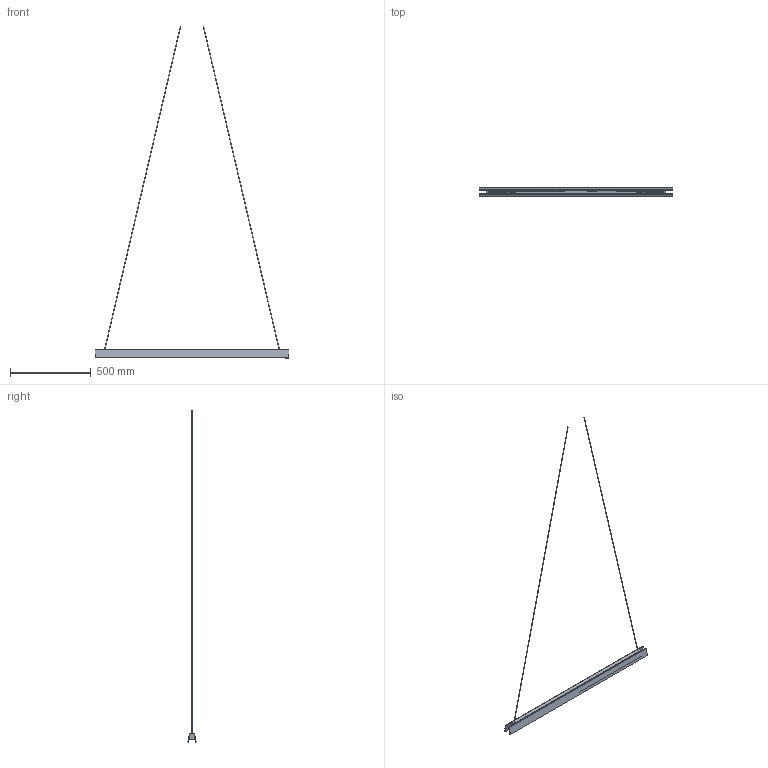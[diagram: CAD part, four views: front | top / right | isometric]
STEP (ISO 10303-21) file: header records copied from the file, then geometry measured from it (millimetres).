
FILE_DESCRIPTION(/* description */ (''),/* implementation_level */ '2;1');
FILE_NAME(/* name */ 'ILKW_TRYANGLE120_B_Pendant_3D',/* time_stamp */ '2026-08-28T16:35:16+09:00',/* author */ (''),/* organization */ (''),/* preprocessor_version */ 'ST-DEVELOPER v19.2',/* originating_system */ 'Rhino 8.21',/* authorisation */ '');
FILE_SCHEMA (('CONFIG_CONTROL_DESIGN'));
Length unit declared in the file: millimetre
Products named in the file (1): Document
Bounding box: 1200 x 49.84 x 2054.48 mm (x, y, z)
Volume: 1859437.9 mm3; surface area: 454795.3 mm2
Topology: 5 solids, 5 shells, 26 faces, 49 edges, 33 vertices
Faces by surface type: plane 22, cylinder 4
Entity records: 685 total; most frequent: CARTESIAN_POINT 170, ORIENTED_EDGE 96, EDGE_CURVE 48, DIRECTION 48, B_SPLINE_CURVE_WITH_KNOTS 37, AXIS2_PLACEMENT_3D 37, VERTEX_POINT 32, ADVANCED_FACE 26
